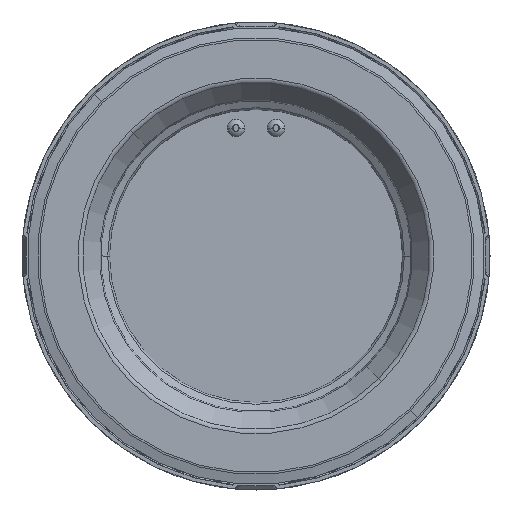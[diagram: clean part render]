
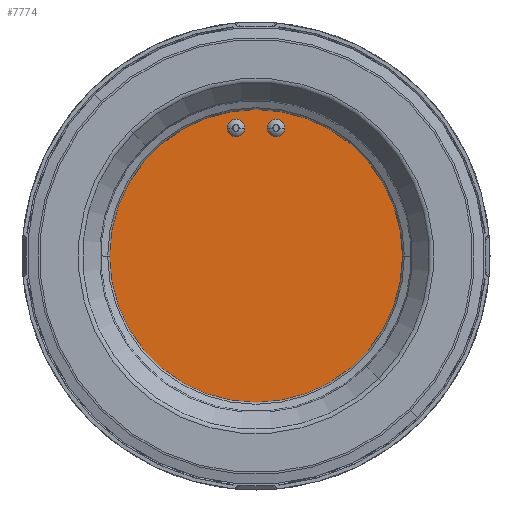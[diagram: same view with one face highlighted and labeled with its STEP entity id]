
A CAD part, front view. The second image highlights one B-rep face of the part: STEP entity #7774.
In plain terms, the highlighted planar face has unit normal (0, -1, 0).
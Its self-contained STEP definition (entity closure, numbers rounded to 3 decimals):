
#7535=CARTESIAN_POINT('',(-57.276,-7.,-41.719));
#7536=DIRECTION('',(0.,1.,0.));
#7537=DIRECTION('',(-0.707,0.,0.707));
#7538=AXIS2_PLACEMENT_3D('',#7535,#7536,#7537);
#7540=CARTESIAN_POINT('',(-57.276,-7.,-41.719));
#7541=DIRECTION('',(0.,1.,0.));
#7542=DIRECTION('',(0.707,0.,-0.707));
#7543=AXIS2_PLACEMENT_3D('',#7540,#7541,#7542);
#7545=CARTESIAN_POINT('',(-41.719,-7.,-57.276));
#7546=DIRECTION('',(0.,1.,0.));
#7547=DIRECTION('',(-0.707,0.,0.707));
#7548=AXIS2_PLACEMENT_3D('',#7545,#7546,#7547);
#7550=CARTESIAN_POINT('',(-41.719,-7.,-57.276));
#7551=DIRECTION('',(0.,1.,0.));
#7552=DIRECTION('',(0.707,0.,-0.707));
#7553=AXIS2_PLACEMENT_3D('',#7550,#7551,#7552);
#7555=CARTESIAN_POINT('',(0.,-7.,0.));
#7556=DIRECTION('',(0.,1.,0.));
#7557=DIRECTION('',(1.,0.,0.));
#7558=AXIS2_PLACEMENT_3D('',#7555,#7556,#7557);
#7560=CARTESIAN_POINT('',(0.,-7.,0.));
#7561=DIRECTION('',(0.,1.,0.));
#7562=DIRECTION('',(-1.,0.,0.));
#7563=AXIS2_PLACEMENT_3D('',#7560,#7561,#7562);
#7703=CARTESIAN_POINT('',(87.5,-7.,0.));
#7704=CARTESIAN_POINT('',(-87.5,-7.,0.));
#7705=VERTEX_POINT('',#7703);
#7706=VERTEX_POINT('',#7704);
#7727=CARTESIAN_POINT('',(-43.558,-7.,-55.437));
#7728=CARTESIAN_POINT('',(-39.881,-7.,-59.114));
#7729=VERTEX_POINT('',#7727);
#7730=VERTEX_POINT('',#7728);
#7731=CARTESIAN_POINT('',(-59.114,-7.,-39.881));
#7732=CARTESIAN_POINT('',(-55.437,-7.,-43.558));
#7733=VERTEX_POINT('',#7731);
#7734=VERTEX_POINT('',#7732);
#7751=CARTESIAN_POINT('',(0.,-7.,0.));
#7752=DIRECTION('',(0.,1.,0.));
#7753=DIRECTION('',(1.,0.,0.));
#7754=AXIS2_PLACEMENT_3D('',#7751,#7752,#7753);
#7755=PLANE('',#7754);
#7757=ORIENTED_EDGE('',*,*,#7756,.T.);
#7759=ORIENTED_EDGE('',*,*,#7758,.T.);
#7760=EDGE_LOOP('',(#7757,#7759));
#7761=FACE_OUTER_BOUND('',#7760,.F.);
#7763=ORIENTED_EDGE('',*,*,#7762,.F.);
#7765=ORIENTED_EDGE('',*,*,#7764,.F.);
#7766=EDGE_LOOP('',(#7763,#7765));
#7767=FACE_BOUND('',#7766,.F.);
#7769=ORIENTED_EDGE('',*,*,#7768,.F.);
#7771=ORIENTED_EDGE('',*,*,#7770,.F.);
#7772=EDGE_LOOP('',(#7769,#7771));
#7773=FACE_BOUND('',#7772,.F.);
#7539=CIRCLE('',#7538,2.6);
#7544=CIRCLE('',#7543,2.6);
#7549=CIRCLE('',#7548,2.6);
#7554=CIRCLE('',#7553,2.6);
#7559=CIRCLE('',#7558,87.5);
#7564=CIRCLE('',#7563,87.5);
#7756=EDGE_CURVE('',#7705,#7706,#7559,.T.);
#7758=EDGE_CURVE('',#7706,#7705,#7564,.T.);
#7762=EDGE_CURVE('',#7729,#7730,#7549,.T.);
#7764=EDGE_CURVE('',#7730,#7729,#7554,.T.);
#7768=EDGE_CURVE('',#7733,#7734,#7539,.T.);
#7770=EDGE_CURVE('',#7734,#7733,#7544,.T.);
#7774=ADVANCED_FACE('',(#7761,#7767,#7773),#7755,.F.);
